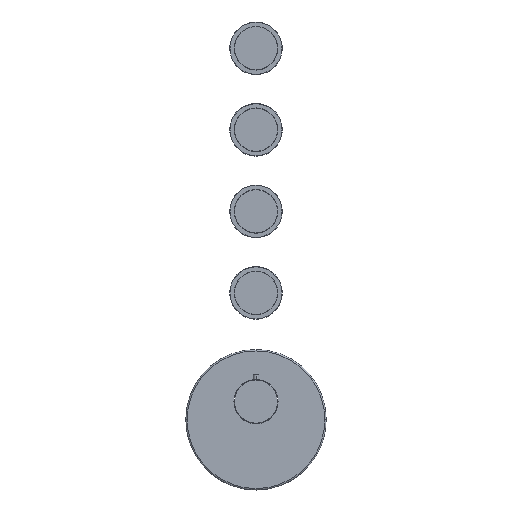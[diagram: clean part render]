
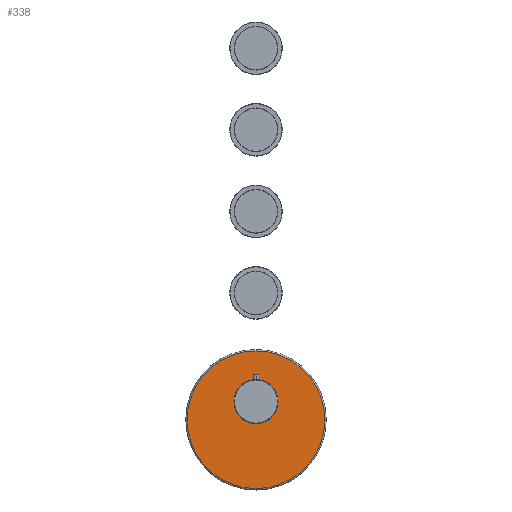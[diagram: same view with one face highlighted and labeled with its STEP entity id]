
A CAD part, top view. The second image highlights one B-rep face of the part: STEP entity #338.
In plain terms, the highlighted planar face has unit normal (0, 0, 1).
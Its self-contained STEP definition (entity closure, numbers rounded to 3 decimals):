
#29=CARTESIAN_POINT('',(0.,0.,7.));
#30=DIRECTION('',(0.,0.,-1.));
#31=DIRECTION('',(-1.,0.,0.));
#32=AXIS2_PLACEMENT_3D('',#29,#30,#31);
#34=CARTESIAN_POINT('',(0.,0.,7.));
#35=DIRECTION('',(0.,0.,-1.));
#36=DIRECTION('',(1.,0.,0.));
#37=AXIS2_PLACEMENT_3D('',#34,#35,#36);
#39=CARTESIAN_POINT('',(0.,20.,7.));
#40=DIRECTION('',(0.,0.,-1.));
#41=DIRECTION('',(-1.,0.,0.));
#42=AXIS2_PLACEMENT_3D('',#39,#40,#41);
#44=CARTESIAN_POINT('',(0.,20.,7.));
#45=DIRECTION('',(0.,0.,-1.));
#46=DIRECTION('',(1.,0.,0.));
#47=AXIS2_PLACEMENT_3D('',#44,#45,#46);
#210=CARTESIAN_POINT('',(-24.4,20.,7.));
#212=VERTEX_POINT('',#210);
#214=CARTESIAN_POINT('',(24.4,20.,7.));
#216=VERTEX_POINT('',#214);
#237=CARTESIAN_POINT('',(-76.,0.,7.));
#238=CARTESIAN_POINT('',(76.,0.,7.));
#239=VERTEX_POINT('',#237);
#240=VERTEX_POINT('',#238);
#323=CARTESIAN_POINT('',(0.,0.,7.));
#324=DIRECTION('',(0.,0.,1.));
#325=DIRECTION('',(1.,0.,0.));
#326=AXIS2_PLACEMENT_3D('',#323,#324,#325);
#327=PLANE('',#326);
#328=ORIENTED_EDGE('',*,*,#274,.T.);
#329=ORIENTED_EDGE('',*,*,#317,.T.);
#330=EDGE_LOOP('',(#328,#329));
#331=FACE_OUTER_BOUND('',#330,.F.);
#333=ORIENTED_EDGE('',*,*,#332,.F.);
#335=ORIENTED_EDGE('',*,*,#334,.F.);
#336=EDGE_LOOP('',(#333,#335));
#337=FACE_BOUND('',#336,.F.);
#338=ADVANCED_FACE('',(#331,#337),#327,.T.);
#33=CIRCLE('',#32,76.);
#38=CIRCLE('',#37,76.);
#43=CIRCLE('',#42,24.4);
#48=CIRCLE('',#47,24.4);
#274=EDGE_CURVE('',#239,#240,#33,.T.);
#317=EDGE_CURVE('',#240,#239,#38,.T.);
#332=EDGE_CURVE('',#212,#216,#43,.T.);
#334=EDGE_CURVE('',#216,#212,#48,.T.);
